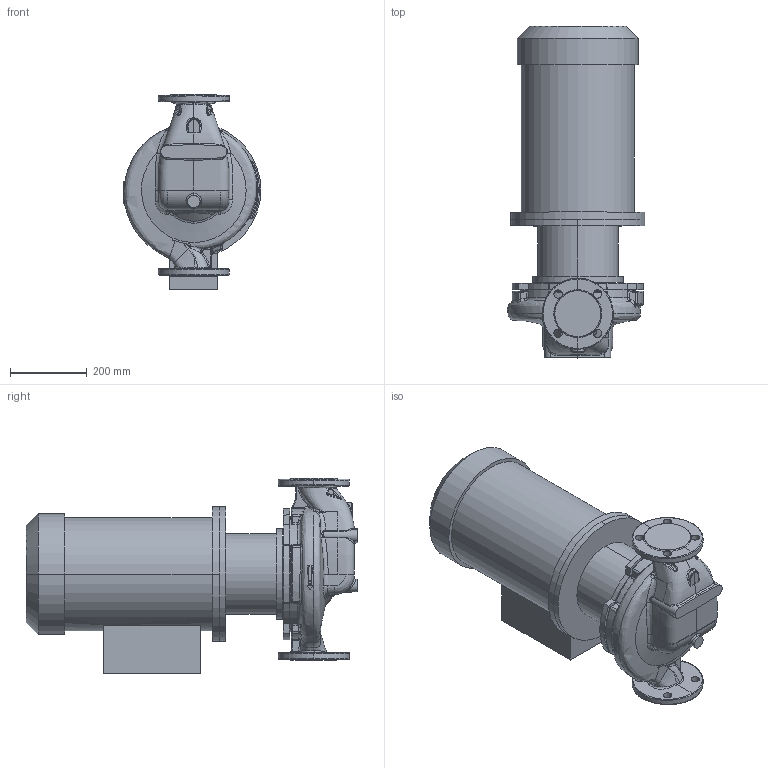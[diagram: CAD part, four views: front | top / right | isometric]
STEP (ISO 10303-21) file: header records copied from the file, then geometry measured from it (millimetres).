
FILE_DESCRIPTION (( 'STEP AP203' ), '1' );
FILE_NAME ('KRL 65-250-196_2-15.STEP', '2026-05-12T09:57:21', ( '' ), ( '' ), 'SwSTEP 2.0', 'SolidWorks 2016', '' );
FILE_SCHEMA (( 'CONFIG_CONTROL_DESIGN' ));
Length unit declared in the file: millimetre
Products named in the file (1): KRL 65-250-196_2-15
Bounding box: 359.42 x 865.3 x 510 mm (x, y, z)
Volume: 60745478.3 mm3; surface area: 1802278.7 mm2
Topology: 4 solids, 4 shells, 621 faces, 1547 edges, 931 vertices
Faces by surface type: bspline 283, cylinder 133, plane 103, cone 43, torus 31, sphere 28
Entity records: 57644 total; most frequent: CARTESIAN_POINT 45456, ORIENTED_EDGE 3058, DIRECTION 1859, EDGE_CURVE 1529, VERTEX_POINT 931, AXIS2_PLACEMENT_3D 797, EDGE_LOOP 652, B_SPLINE_CURVE_WITH_KNOTS 650
